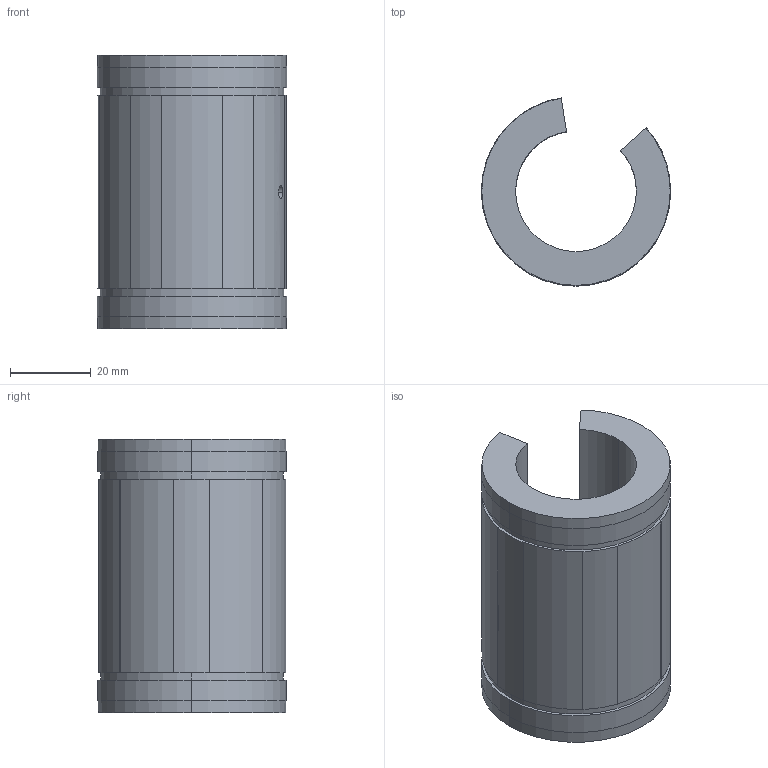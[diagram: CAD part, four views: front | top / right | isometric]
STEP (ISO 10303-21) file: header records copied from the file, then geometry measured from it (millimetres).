
FILE_DESCRIPTION((''),'2;1');
FILE_NAME('C:\Documents and Settings\ｿﾀﾀ蠑ｷ1\ｹﾙﾅﾁ ﾈｭｸ饅\ｺﾎﾇｰﾆﾄﾀﾏ\ﾁｦﾇｰ\LMES__UUOP\LMES30UUOP.stp','2005-06-15T14:08:07',('ｿﾀﾀ蠑ｷ1'),(''),'Autodesk Inventor 9','Autodesk Inventor 9','');
FILE_SCHEMA(('AUTOMOTIVE_DESIGN { 1 0 10303 214 1 1 1 1 }'));
Length unit declared in the file: millimetre
Products named in the file (1): LMES__OP
Bounding box: 47 x 46.71 x 68 mm (x, y, z)
Volume: 58057.9 mm3; surface area: 17069.8 mm2
Topology: 1 solids, 1 shells, 53 faces, 146 edges, 96 vertices
Faces by surface type: cylinder 28, plane 19, cone 6
Entity records: 1761 total; most frequent: CARTESIAN_POINT 330, DIRECTION 312, ORIENTED_EDGE 292, EDGE_CURVE 146, AXIS2_PLACEMENT_3D 114, VERTEX_POINT 96, VECTOR 84, LINE 84
